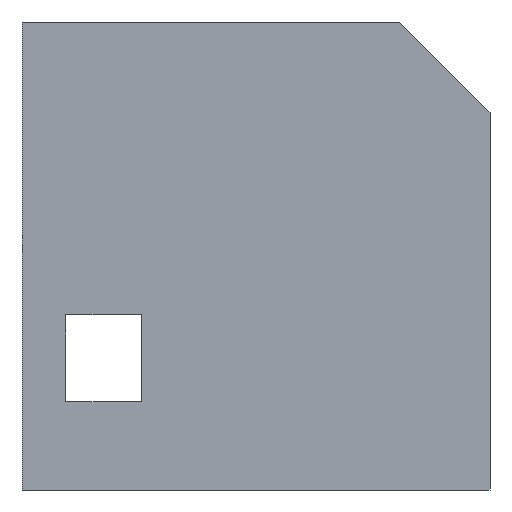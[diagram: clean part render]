
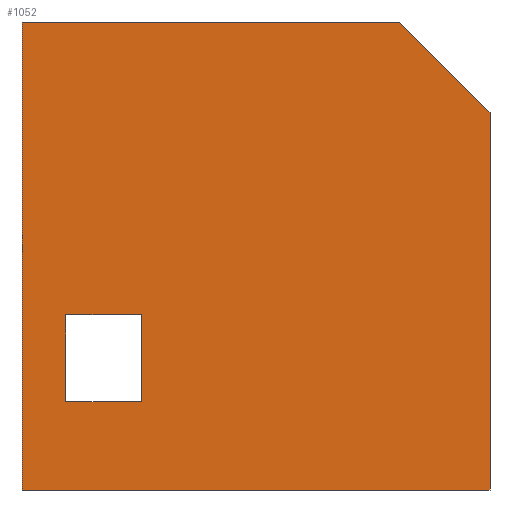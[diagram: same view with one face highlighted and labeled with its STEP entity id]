
A CAD part, front view. The second image highlights one B-rep face of the part: STEP entity #1052.
In plain terms, the highlighted planar face has unit normal (0, -1, 0).
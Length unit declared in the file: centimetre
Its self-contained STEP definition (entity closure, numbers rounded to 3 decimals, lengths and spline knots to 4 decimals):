
#23 = CARTESIAN_POINT ( 'NONE',  ( 0., 0., 1000. ) ) ;
#69 = DIRECTION ( 'NONE',  ( 0., 0., -1. ) ) ;
#135 = LINE ( 'NONE', #1151, #147 ) ;
#136 = ORIENTED_EDGE ( 'NONE', *, *, #1431, .T. ) ;
#138 = VECTOR ( 'NONE', #69, 100. ) ;
#142 = EDGE_CURVE ( 'NONE', #270, #1086, #135, .T. ) ;
#147 = VECTOR ( 'NONE', #1061, 100. ) ;
#189 = CARTESIAN_POINT ( 'NONE',  ( 806.4809, 0., 1000. ) ) ;
#243 = EDGE_CURVE ( 'NONE', #1086, #1361, #1424, .T. ) ;
#246 = VECTOR ( 'NONE', #1598, 100. ) ;
#259 = CARTESIAN_POINT ( 'NONE',  ( 1000., 0., 1000. ) ) ;
#263 = LINE ( 'NONE', #802, #1592 ) ;
#270 = VERTEX_POINT ( 'NONE', #1582 ) ;
#282 = ORIENTED_EDGE ( 'NONE', *, *, #383, .T. ) ;
#293 = CARTESIAN_POINT ( 'NONE',  ( 93.2917, 0., 188.6221 ) ) ;
#303 = CARTESIAN_POINT ( 'NONE',  ( 255.619, 0., 188.6221 ) ) ;
#317 = VERTEX_POINT ( 'NONE', #1335 ) ;
#330 = EDGE_LOOP ( 'NONE', ( #501, #282, #1105, #948, #1231 ) ) ;
#349 = EDGE_LOOP ( 'NONE', ( #1585, #136, #528, #547 ) ) ;
#377 = DIRECTION ( 'NONE',  ( 1., 0., 0. ) ) ;
#382 = DIRECTION ( 'NONE',  ( 0., 1., 0. ) ) ;
#383 = EDGE_CURVE ( 'NONE', #998, #1641, #1513, .T. ) ;
#427 = CARTESIAN_POINT ( 'NONE',  ( 1000., 0., 806.4809 ) ) ;
#496 = VECTOR ( 'NONE', #944, 100. ) ;
#499 = AXIS2_PLACEMENT_3D ( 'NONE', #23, #382, #1032 ) ;
#501 = ORIENTED_EDGE ( 'NONE', *, *, #815, .F. ) ;
#524 = DIRECTION ( 'NONE',  ( 1., 0., 0. ) ) ;
#528 = ORIENTED_EDGE ( 'NONE', *, *, #662, .T. ) ;
#547 = ORIENTED_EDGE ( 'NONE', *, *, #1203, .T. ) ;
#568 = LINE ( 'NONE', #293, #496 ) ;
#591 = LINE ( 'NONE', #1257, #1476 ) ;
#592 = LINE ( 'NONE', #303, #138 ) ;
#635 = CARTESIAN_POINT ( 'NONE',  ( 1000., 0., 0. ) ) ;
#662 = EDGE_CURVE ( 'NONE', #317, #954, #263, .T. ) ;
#691 = VECTOR ( 'NONE', #1010, 100. ) ;
#797 = CARTESIAN_POINT ( 'NONE',  ( 0., 0., 0. ) ) ;
#802 = CARTESIAN_POINT ( 'NONE',  ( 93.2917, 0., 374.36 ) ) ;
#815 = EDGE_CURVE ( 'NONE', #998, #1361, #958, .T. ) ;
#847 = VECTOR ( 'NONE', #377, 100. ) ;
#854 = CARTESIAN_POINT ( 'NONE',  ( 806.4809, 0., 1000. ) ) ;
#874 = DIRECTION ( 'NONE',  ( 1., 0., 0. ) ) ;
#944 = DIRECTION ( 'NONE',  ( 0., 0., 1. ) ) ;
#948 = ORIENTED_EDGE ( 'NONE', *, *, #142, .T. ) ;
#954 = VERTEX_POINT ( 'NONE', #1685 ) ;
#958 = LINE ( 'NONE', #259, #246 ) ;
#998 = VERTEX_POINT ( 'NONE', #427 ) ;
#1010 = DIRECTION ( 'NONE',  ( -1., 0., 0. ) ) ;
#1014 = VERTEX_POINT ( 'NONE', #1078 ) ;
#1032 = DIRECTION ( 'NONE',  ( 0., 0., 1. ) ) ;
#1052 = ADVANCED_FACE ( 'NONE', ( #1156, #1485 ), #1216, .F. ) ;
#1061 = DIRECTION ( 'NONE',  ( 0., 0., -1. ) ) ;
#1078 = CARTESIAN_POINT ( 'NONE',  ( 93.2917, 0., 188.6221 ) ) ;
#1086 = VERTEX_POINT ( 'NONE', #1621 ) ;
#1105 = ORIENTED_EDGE ( 'NONE', *, *, #1656, .F. ) ;
#1108 = DIRECTION ( 'NONE',  ( -0.707, 0., 0.707 ) ) ;
#1130 = VERTEX_POINT ( 'NONE', #1523 ) ;
#1151 = CARTESIAN_POINT ( 'NONE',  ( 0., 0., 1000. ) ) ;
#1156 = FACE_BOUND ( 'NONE', #349, .T. ) ;
#1203 = EDGE_CURVE ( 'NONE', #954, #1130, #592, .T. ) ;
#1216 = PLANE ( 'NONE',  #499 ) ;
#1230 = VECTOR ( 'NONE', #1108, 100. ) ;
#1231 = ORIENTED_EDGE ( 'NONE', *, *, #243, .T. ) ;
#1241 = CARTESIAN_POINT ( 'NONE',  ( 93.2917, 0., 188.6221 ) ) ;
#1257 = CARTESIAN_POINT ( 'NONE',  ( 0., 0., 1000. ) ) ;
#1335 = CARTESIAN_POINT ( 'NONE',  ( 93.2917, 0., 374.36 ) ) ;
#1361 = VERTEX_POINT ( 'NONE', #635 ) ;
#1406 = LINE ( 'NONE', #1241, #691 ) ;
#1424 = LINE ( 'NONE', #797, #847 ) ;
#1431 = EDGE_CURVE ( 'NONE', #1014, #317, #568, .T. ) ;
#1476 = VECTOR ( 'NONE', #874, 100. ) ;
#1485 = FACE_OUTER_BOUND ( 'NONE', #330, .T. ) ;
#1513 = LINE ( 'NONE', #189, #1230 ) ;
#1523 = CARTESIAN_POINT ( 'NONE',  ( 255.619, 0., 188.6221 ) ) ;
#1582 = CARTESIAN_POINT ( 'NONE',  ( 0., 0., 1000. ) ) ;
#1585 = ORIENTED_EDGE ( 'NONE', *, *, #1677, .T. ) ;
#1592 = VECTOR ( 'NONE', #524, 100. ) ;
#1598 = DIRECTION ( 'NONE',  ( 0., 0., -1. ) ) ;
#1621 = CARTESIAN_POINT ( 'NONE',  ( 0., 0., 0. ) ) ;
#1641 = VERTEX_POINT ( 'NONE', #854 ) ;
#1656 = EDGE_CURVE ( 'NONE', #270, #1641, #591, .T. ) ;
#1677 = EDGE_CURVE ( 'NONE', #1130, #1014, #1406, .T. ) ;
#1685 = CARTESIAN_POINT ( 'NONE',  ( 255.619, 0., 374.36 ) ) ;
